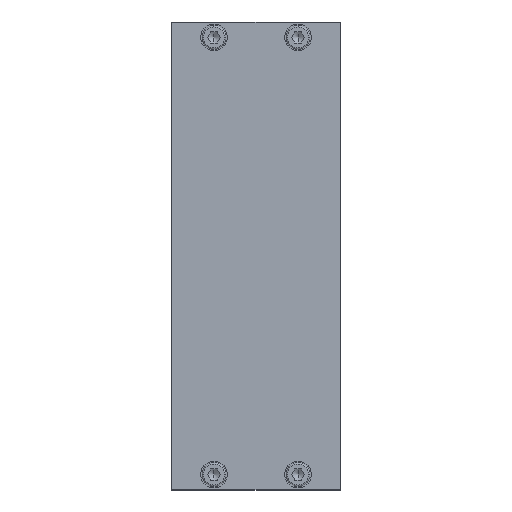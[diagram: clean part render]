
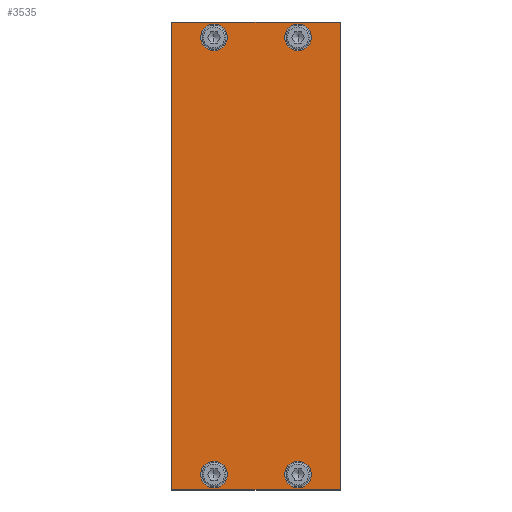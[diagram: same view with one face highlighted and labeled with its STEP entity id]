
A CAD part, top view. The second image highlights one B-rep face of the part: STEP entity #3535.
In plain terms, the highlighted planar face has unit normal (0, 0, 1).
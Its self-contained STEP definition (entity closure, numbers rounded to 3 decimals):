
#135=CARTESIAN_POINT('',(19.75,5.5,5.));
#136=VERTEX_POINT('',#135);
#152=CARTESIAN_POINT('',(10.25,5.5,5.));
#153=VERTEX_POINT('',#152);
#160=CARTESIAN_POINT('',(15.0,5.5,5.));
#161=DIRECTION('',(0.0,0.0,-1.0));
#162=DIRECTION('',(1.0,0.0,0.0));
#163=AXIS2_PLACEMENT_3D('',#160,#161,#162);
#164=CIRCLE('',#163,4.75);
#165=EDGE_CURVE('',#136,#153,#164,.T.);
#261=CARTESIAN_POINT('',(-10.25,5.5,5.));
#262=VERTEX_POINT('',#261);
#278=CARTESIAN_POINT('',(-19.75,5.5,5.));
#279=VERTEX_POINT('',#278);
#286=CARTESIAN_POINT('',(-15.0,5.5,5.));
#287=DIRECTION('',(0.0,0.0,-1.0));
#288=DIRECTION('',(1.0,0.0,0.0));
#289=AXIS2_PLACEMENT_3D('',#286,#287,#288);
#290=CIRCLE('',#289,4.75);
#291=EDGE_CURVE('',#262,#279,#290,.T.);
#324=CARTESIAN_POINT('',(19.75,161.5,5.));
#325=VERTEX_POINT('',#324);
#341=CARTESIAN_POINT('',(10.25,161.5,5.));
#342=VERTEX_POINT('',#341);
#349=CARTESIAN_POINT('',(15.0,161.5,5.));
#350=DIRECTION('',(0.0,0.0,-1.0));
#351=DIRECTION('',(1.0,0.0,0.0));
#352=AXIS2_PLACEMENT_3D('',#349,#350,#351);
#353=CIRCLE('',#352,4.75);
#354=EDGE_CURVE('',#325,#342,#353,.T.);
#513=CARTESIAN_POINT('',(-10.25,161.5,5.));
#514=VERTEX_POINT('',#513);
#530=CARTESIAN_POINT('',(-19.75,161.5,5.));
#531=VERTEX_POINT('',#530);
#538=CARTESIAN_POINT('',(-15.0,161.5,5.));
#539=DIRECTION('',(0.0,0.0,-1.0));
#540=DIRECTION('',(1.0,0.0,0.0));
#541=AXIS2_PLACEMENT_3D('',#538,#539,#540);
#542=CIRCLE('',#541,4.75);
#543=EDGE_CURVE('',#514,#531,#542,.T.);
#3035=CARTESIAN_POINT('',(-15.0,161.5,5.));
#3036=DIRECTION('',(0.0,0.0,-1.0));
#3037=DIRECTION('',(1.0,0.0,0.0));
#3038=AXIS2_PLACEMENT_3D('',#3035,#3036,#3037);
#3039=CIRCLE('',#3038,4.75);
#3040=EDGE_CURVE('',#531,#514,#3039,.T.);
#3152=CARTESIAN_POINT('',(15.0,161.5,5.));
#3153=DIRECTION('',(0.0,0.0,-1.0));
#3154=DIRECTION('',(1.0,0.0,0.0));
#3155=AXIS2_PLACEMENT_3D('',#3152,#3153,#3154);
#3156=CIRCLE('',#3155,4.75);
#3157=EDGE_CURVE('',#342,#325,#3156,.T.);
#3231=CARTESIAN_POINT('',(-15.0,5.5,5.));
#3232=DIRECTION('',(0.0,0.0,-1.0));
#3233=DIRECTION('',(1.0,0.0,0.0));
#3234=AXIS2_PLACEMENT_3D('',#3231,#3232,#3233);
#3235=CIRCLE('',#3234,4.75);
#3236=EDGE_CURVE('',#279,#262,#3235,.T.);
#3329=CARTESIAN_POINT('',(15.0,5.5,5.));
#3330=DIRECTION('',(0.0,0.0,-1.0));
#3331=DIRECTION('',(1.0,0.0,0.0));
#3332=AXIS2_PLACEMENT_3D('',#3329,#3330,#3331);
#3333=CIRCLE('',#3332,4.75);
#3334=EDGE_CURVE('',#153,#136,#3333,.T.);
#3385=CARTESIAN_POINT('',(-30.0,167.0,5.));
#3386=VERTEX_POINT('',#3385);
#3403=CARTESIAN_POINT('',(-30.0,0.0,5.));
#3404=VERTEX_POINT('',#3403);
#3411=CARTESIAN_POINT('',(-30.0,0.0,5.));
#3412=DIRECTION('',(0.0,1.0,0.0));
#3413=VECTOR('',#3412,167.0);
#3414=LINE('',#3411,#3413);
#3415=EDGE_CURVE('',#3404,#3386,#3414,.T.);
#3472=CARTESIAN_POINT('',(30.0,167.0,5.));
#3473=VERTEX_POINT('',#3472);
#3480=CARTESIAN_POINT('',(30.0,0.0,5.));
#3481=VERTEX_POINT('',#3480);
#3482=CARTESIAN_POINT('',(30.0,0.0,5.));
#3483=DIRECTION('',(0.0,1.0,0.0));
#3484=VECTOR('',#3483,167.0);
#3485=LINE('',#3482,#3484);
#3486=EDGE_CURVE('',#3481,#3473,#3485,.T.);
#3498=CARTESIAN_POINT('',(30.0,0.0,5.));
#3499=DIRECTION('',(0.0,0.0,1.0));
#3500=DIRECTION('',(1.0,0.0,0.0));
#3501=AXIS2_PLACEMENT_3D('',#3498,#3499,#3500);
#3502=PLANE('',#3501);
#3503=CARTESIAN_POINT('',(30.0,167.0,5.));
#3504=DIRECTION('',(-1.0,0.0,0.0));
#3505=VECTOR('',#3504,60.0);
#3506=LINE('',#3503,#3505);
#3507=EDGE_CURVE('',#3473,#3386,#3506,.T.);
#3508=ORIENTED_EDGE('',*,*,#3507,.T.);
#3509=ORIENTED_EDGE('',*,*,#3415,.F.);
#3510=CARTESIAN_POINT('',(30.0,0.0,5.));
#3511=DIRECTION('',(-1.0,0.0,0.0));
#3512=VECTOR('',#3511,60.0);
#3513=LINE('',#3510,#3512);
#3514=EDGE_CURVE('',#3481,#3404,#3513,.T.);
#3515=ORIENTED_EDGE('',*,*,#3514,.F.);
#3516=ORIENTED_EDGE('',*,*,#3486,.T.);
#3517=EDGE_LOOP('',(#3508,#3509,#3515,#3516));
#3518=FACE_OUTER_BOUND('',#3517,.T.);
#3519=ORIENTED_EDGE('',*,*,#543,.T.);
#3520=ORIENTED_EDGE('',*,*,#3040,.T.);
#3521=EDGE_LOOP('',(#3519,#3520));
#3522=FACE_BOUND('',#3521,.T.);
#3523=ORIENTED_EDGE('',*,*,#354,.T.);
#3524=ORIENTED_EDGE('',*,*,#3157,.T.);
#3525=EDGE_LOOP('',(#3523,#3524));
#3526=FACE_BOUND('',#3525,.T.);
#3527=ORIENTED_EDGE('',*,*,#291,.T.);
#3528=ORIENTED_EDGE('',*,*,#3236,.T.);
#3529=EDGE_LOOP('',(#3527,#3528));
#3530=FACE_BOUND('',#3529,.T.);
#3531=ORIENTED_EDGE('',*,*,#165,.T.);
#3532=ORIENTED_EDGE('',*,*,#3334,.T.);
#3533=EDGE_LOOP('',(#3531,#3532));
#3534=FACE_BOUND('',#3533,.T.);
#3535=ADVANCED_FACE('',(#3518,#3522,#3526,#3530,#3534),#3502,.T.);
